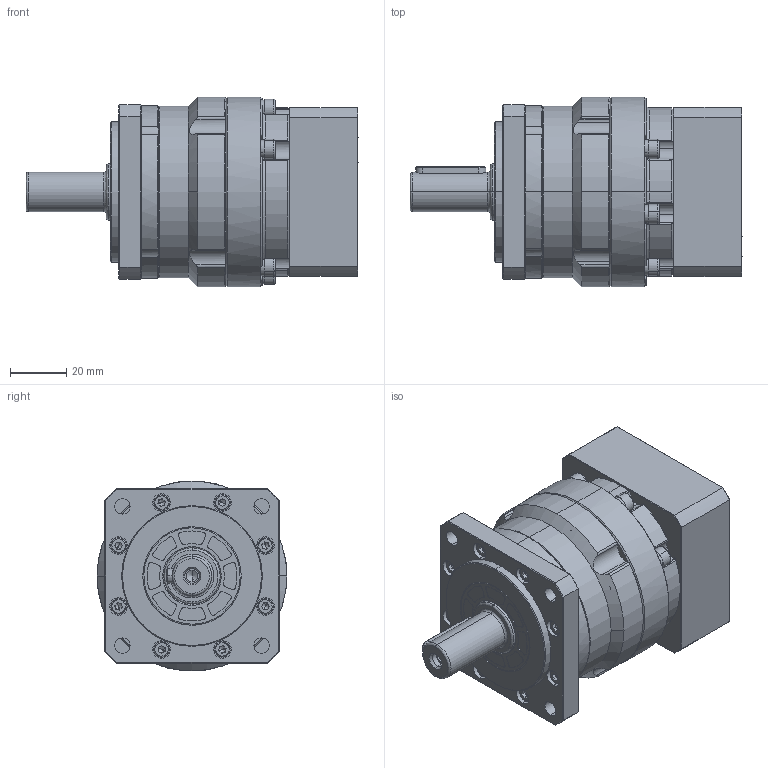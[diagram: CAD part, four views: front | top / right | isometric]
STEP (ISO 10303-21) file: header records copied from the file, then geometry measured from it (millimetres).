
FILE_DESCRIPTION (( 'STEP AP214' ), '1' );
FILE_NAME ('FB060-L1-S2-P2 14-50-70-M5.STEP', '2023-09-20T03:28:15', ( '微软用户' ), ( '微软中国' ), 'SwSTEP 2.0', 'SolidWorks 2018', '' );
FILE_SCHEMA (( 'AUTOMOTIVE_DESIGN' ));
Length unit declared in the file: millimetre
Products named in the file (16): 標杶FB060D17; FB060方输出端盖外形图; hexagon socket head cap screws gb_GB_FASTENER_SCREWS_HSHCS M5X16-N; 输入太阳轮FB060D14外形图; 一级输出轴FB060外形图; FB060一级齿圈外形图; 萇儂楊擘FB060-D50-M5-70F60H24.5; FB060笢潔楊擘俋倛芞; hex socket set screws with flat point gb_GB_FASTENER_SCREWS_HSFP M10X8-N; spring lock washers--normal type gb_GB_FASTENER_WASHER_SW 4; hexagon socket head cap screws gb_GB_FASTENER_SCREWS_HSHCS M4X20-N; 蚐猾20X35X5; FB060-L1-S2-P2 14-50-70-M5; hexagon socket head cap screws gb_GB_FASTENER_SCREWS_HSHCS M3X16-N; plain parallel keys_GB_CONNECTING_PIECE_KEYS_CSK 5X25; spring lock washers--normal type gb_GB_FASTENER_WASHER_SW 3
Assembly tree (51 placements, depth 2):
  FB060-L1-S2-P2 14-50-70-M5
    FB060一级齿圈外形图
    一级输出轴FB060外形图
    输入太阳轮FB060D14外形图
    FB060笢潔楊擘俋倛芞
    萇儂楊擘FB060-D50-M5-70F60H24.5
    標杶FB060D17
    hexagon socket head cap screws gb_GB_FASTENER_SCREWS_HSHCS M5X16-N
    hexagon socket head cap screws gb_GB_FASTENER_SCREWS_HSHCS M4X20-N  x12
    spring lock washers--normal type gb_GB_FASTENER_WASHER_SW 4  x12
    hex socket set screws with flat point gb_GB_FASTENER_SCREWS_HSFP M10X8-N
    FB060方输出端盖外形图
    蚐猾20X35X5
    plain parallel keys_GB_CONNECTING_PIECE_KEYS_CSK 5X25
    hexagon socket head cap screws gb_GB_FASTENER_SCREWS_HSHCS M3X16-N  x8
    spring lock washers--normal type gb_GB_FASTENER_WASHER_SW 3  x8
Bounding box: 118 x 67.5 x 67.5 mm (x, y, z)
Volume: 243482 mm3; surface area: 79786.5 mm2
Topology: 51 solids, 51 shells, 1472 faces, 3594 edges, 2228 vertices
Faces by surface type: plane 575, cylinder 545, cone 260, bspline 92
Entity records: 36978 total; most frequent: CARTESIAN_POINT 6613, DIRECTION 4487, ORIENTED_EDGE 4148, EDGE_CURVE 2074, AXIS2_PLACEMENT_3D 1818, VERTEX_POINT 1324, CIRCLE 978, EDGE_LOOP 964
